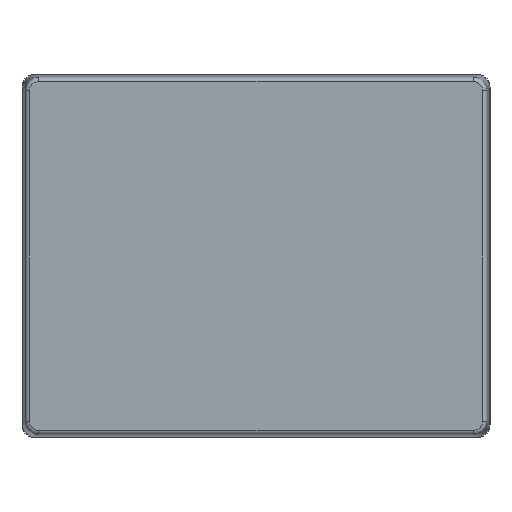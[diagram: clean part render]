
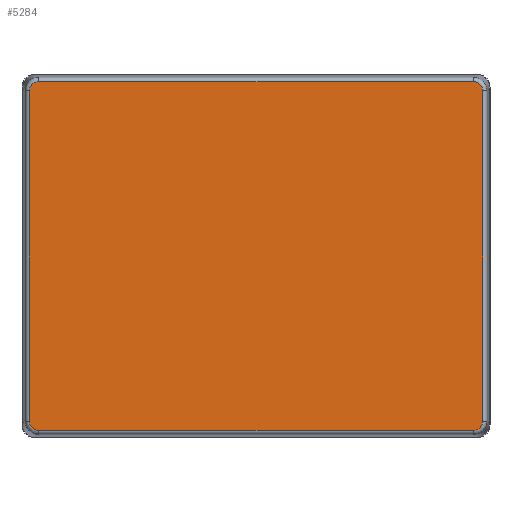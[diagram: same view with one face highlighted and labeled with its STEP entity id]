
A CAD part, front view. The second image highlights one B-rep face of the part: STEP entity #5284.
In plain terms, the highlighted planar face has unit normal (0, -1, 0).
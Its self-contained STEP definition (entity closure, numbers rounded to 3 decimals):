
#62 = ORIENTED_EDGE ( 'NONE', *, *, #1682, .T. ) ;
#117 = VECTOR ( 'NONE', #1422, 1000. ) ;
#508 = CARTESIAN_POINT ( 'NONE',  ( 53.181, 0., -38.782 ) ) ;
#613 = CARTESIAN_POINT ( 'NONE',  ( -51.032, 0., 40.931 ) ) ;
#869 = VECTOR ( 'NONE', #2605, 1000. ) ;
#909 = ORIENTED_EDGE ( 'NONE', *, *, #2497, .T. ) ;
#943 = CARTESIAN_POINT ( 'NONE',  ( -53.181, 0., 38.782 ) ) ;
#1003 = CARTESIAN_POINT ( 'NONE',  ( -53.181, 0., -40.041 ) ) ;
#1049 = CARTESIAN_POINT ( 'NONE',  ( 0., 0., 0. ) ) ;
#1057 =( BOUNDED_CURVE ( )  B_SPLINE_CURVE ( 3, ( #2472, #5972, #6554, #508 ),
 .UNSPECIFIED., .F., .F. ) 
 B_SPLINE_CURVE_WITH_KNOTS ( ( 4, 4 ),
 ( 2.357, 3.926 ),
 .UNSPECIFIED. ) 
 CURVE ( )  GEOMETRIC_REPRESENTATION_ITEM ( )  RATIONAL_B_SPLINE_CURVE ( ( 1., 0.805, 0.805, 1. ) ) 
 REPRESENTATION_ITEM ( '' )  );
#1188 = CARTESIAN_POINT ( 'NONE',  ( 53.181, 0., 38.782 ) ) ;
#1315 = CARTESIAN_POINT ( 'NONE',  ( -53.181, 0., 0. ) ) ;
#1316 = VECTOR ( 'NONE', #6431, 1000. ) ;
#1422 = DIRECTION ( 'NONE',  ( 0., 0., -1. ) ) ;
#1492 = VERTEX_POINT ( 'NONE', #6161 ) ;
#1494 = LINE ( 'NONE', #1315, #117 ) ;
#1540 = EDGE_CURVE ( 'NONE', #1835, #6480, #4200, .T. ) ;
#1544 = ORIENTED_EDGE ( 'NONE', *, *, #1540, .T. ) ;
#1548 =( BOUNDED_CURVE ( )  B_SPLINE_CURVE ( 3, ( #613, #4255, #3178, #6315 ),
 .UNSPECIFIED., .F., .F. ) 
 B_SPLINE_CURVE_WITH_KNOTS ( ( 4, 4 ),
 ( 2.357, 3.926 ),
 .UNSPECIFIED. ) 
 CURVE ( )  GEOMETRIC_REPRESENTATION_ITEM ( )  RATIONAL_B_SPLINE_CURVE ( ( 1., 0.805, 0.805, 1. ) ) 
 REPRESENTATION_ITEM ( '' )  );
#1640 = CARTESIAN_POINT ( 'NONE',  ( 53.181, 0., -38.782 ) ) ;
#1682 = EDGE_CURVE ( 'NONE', #2359, #1835, #1494, .T. ) ;
#1771 = CARTESIAN_POINT ( 'NONE',  ( -51.032, 0., 40.931 ) ) ;
#1835 = VERTEX_POINT ( 'NONE', #2067 ) ;
#1909 = PLANE ( 'NONE',  #3088 ) ;
#1928 = EDGE_CURVE ( 'NONE', #2014, #3992, #1057, .T. ) ;
#2014 = VERTEX_POINT ( 'NONE', #4650 ) ;
#2038 = CARTESIAN_POINT ( 'NONE',  ( -53.181, 0., -38.782 ) ) ;
#2067 = CARTESIAN_POINT ( 'NONE',  ( -53.181, 0., -38.782 ) ) ;
#2111 = CARTESIAN_POINT ( 'NONE',  ( 0., 0., 40.931 ) ) ;
#2231 = CARTESIAN_POINT ( 'NONE',  ( 51.032, 0., 40.931 ) ) ;
#2294 = LINE ( 'NONE', #5587, #5200 ) ;
#2359 = VERTEX_POINT ( 'NONE', #943 ) ;
#2446 = DIRECTION ( 'NONE',  ( 0., 0., 1. ) ) ;
#2472 = CARTESIAN_POINT ( 'NONE',  ( 51.032, 0., -40.931 ) ) ;
#2497 = EDGE_CURVE ( 'NONE', #2542, #4447, #6238, .T. ) ;
#2542 = VERTEX_POINT ( 'NONE', #4266 ) ;
#2605 = DIRECTION ( 'NONE',  ( -1., 0., 0. ) ) ;
#3088 = AXIS2_PLACEMENT_3D ( 'NONE', #1049, #6211, #2446 ) ;
#3161 = CARTESIAN_POINT ( 'NONE',  ( -51.032, 0., -40.931 ) ) ;
#3178 = CARTESIAN_POINT ( 'NONE',  ( -53.181, 0., 40.041 ) ) ;
#3291 = ORIENTED_EDGE ( 'NONE', *, *, #4346, .T. ) ;
#3744 = ORIENTED_EDGE ( 'NONE', *, *, #3994, .T. ) ;
#3787 = CARTESIAN_POINT ( 'NONE',  ( 52.291, 0., 40.931 ) ) ;
#3828 = CARTESIAN_POINT ( 'NONE',  ( 53.181, 0., 0. ) ) ;
#3835 = CARTESIAN_POINT ( 'NONE',  ( -52.291, 0., -40.931 ) ) ;
#3852 = CARTESIAN_POINT ( 'NONE',  ( 53.181, 0., 40.041 ) ) ;
#3924 = LINE ( 'NONE', #3828, #1316 ) ;
#3992 = VERTEX_POINT ( 'NONE', #1640 ) ;
#3994 = EDGE_CURVE ( 'NONE', #4447, #2359, #1548, .T. ) ;
#4200 =( BOUNDED_CURVE ( )  B_SPLINE_CURVE ( 3, ( #2038, #1003, #3835, #3161 ),
 .UNSPECIFIED., .F., .F. ) 
 B_SPLINE_CURVE_WITH_KNOTS ( ( 4, 4 ),
 ( 2.357, 3.926 ),
 .UNSPECIFIED. ) 
 CURVE ( )  GEOMETRIC_REPRESENTATION_ITEM ( )  RATIONAL_B_SPLINE_CURVE ( ( 1., 0.805, 0.805, 1. ) ) 
 REPRESENTATION_ITEM ( '' )  );
#4255 = CARTESIAN_POINT ( 'NONE',  ( -52.291, 0., 40.931 ) ) ;
#4266 = CARTESIAN_POINT ( 'NONE',  ( 51.032, 0., 40.931 ) ) ;
#4346 = EDGE_CURVE ( 'NONE', #1492, #2542, #4625, .T. ) ;
#4447 = VERTEX_POINT ( 'NONE', #1771 ) ;
#4559 = DIRECTION ( 'NONE',  ( 1., 0., 0. ) ) ;
#4608 = ORIENTED_EDGE ( 'NONE', *, *, #1928, .T. ) ;
#4625 =( BOUNDED_CURVE ( )  B_SPLINE_CURVE ( 3, ( #1188, #3852, #3787, #2231 ),
 .UNSPECIFIED., .F., .F. ) 
 B_SPLINE_CURVE_WITH_KNOTS ( ( 4, 4 ),
 ( 2.357, 3.926 ),
 .UNSPECIFIED. ) 
 CURVE ( )  GEOMETRIC_REPRESENTATION_ITEM ( )  RATIONAL_B_SPLINE_CURVE ( ( 1., 0.805, 0.805, 1. ) ) 
 REPRESENTATION_ITEM ( '' )  );
#4650 = CARTESIAN_POINT ( 'NONE',  ( 51.032, 0., -40.931 ) ) ;
#5200 = VECTOR ( 'NONE', #4559, 1000. ) ;
#5284 = ADVANCED_FACE ( 'NONE', ( #5931 ), #1909, .F. ) ;
#5587 = CARTESIAN_POINT ( 'NONE',  ( 0., 0., -40.931 ) ) ;
#5717 = ORIENTED_EDGE ( 'NONE', *, *, #6424, .T. ) ;
#5851 = EDGE_CURVE ( 'NONE', #6480, #2014, #2294, .T. ) ;
#5931 = FACE_OUTER_BOUND ( 'NONE', #6542, .T. ) ;
#5972 = CARTESIAN_POINT ( 'NONE',  ( 52.291, 0., -40.931 ) ) ;
#5997 = CARTESIAN_POINT ( 'NONE',  ( -51.032, 0., -40.931 ) ) ;
#6161 = CARTESIAN_POINT ( 'NONE',  ( 53.181, 0., 38.782 ) ) ;
#6211 = DIRECTION ( 'NONE',  ( 0., 1., 0. ) ) ;
#6238 = LINE ( 'NONE', #2111, #869 ) ;
#6305 = ORIENTED_EDGE ( 'NONE', *, *, #5851, .T. ) ;
#6315 = CARTESIAN_POINT ( 'NONE',  ( -53.181, 0., 38.782 ) ) ;
#6424 = EDGE_CURVE ( 'NONE', #3992, #1492, #3924, .T. ) ;
#6431 = DIRECTION ( 'NONE',  ( 0., 0., 1. ) ) ;
#6480 = VERTEX_POINT ( 'NONE', #5997 ) ;
#6542 = EDGE_LOOP ( 'NONE', ( #6305, #4608, #5717, #3291, #909, #3744, #62, #1544 ) ) ;
#6554 = CARTESIAN_POINT ( 'NONE',  ( 53.181, 0., -40.041 ) ) ;
